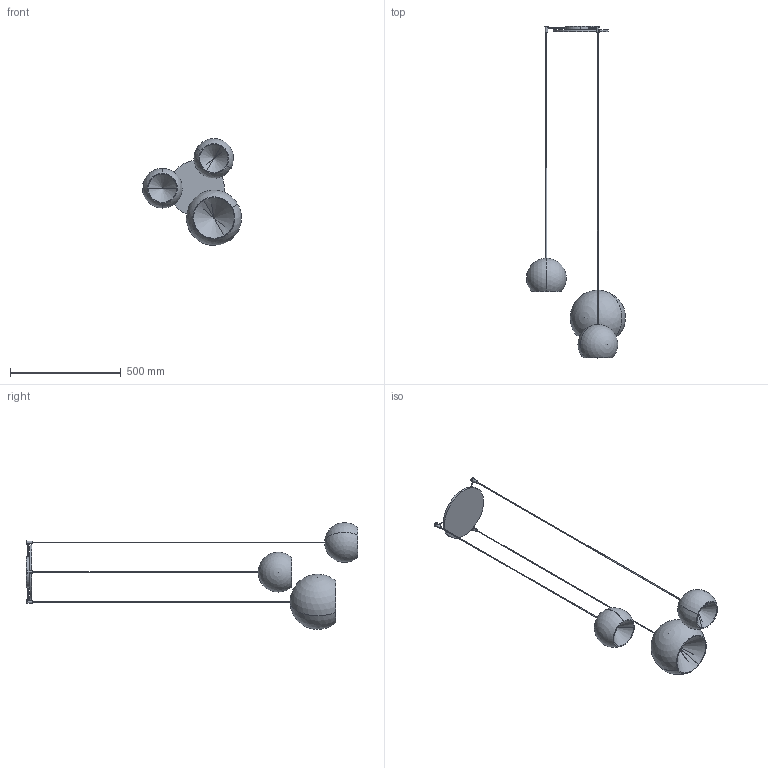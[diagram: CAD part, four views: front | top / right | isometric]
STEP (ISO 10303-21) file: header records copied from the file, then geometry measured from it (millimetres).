
FILE_DESCRIPTION (( 'STEP AP203' ), '1' );
FILE_NAME ('CRM03-00-CHERRY MIX_3 SOSPENSIONE.STEP', '2024-07-31T09:26:09', ( '' ), ( '' ), 'SwSTEP 2.0', 'SolidWorks 2022', '' );
FILE_SCHEMA (( 'CONFIG_CONTROL_DESIGN' ));
Length unit declared in the file: millimetre
Products named in the file (5): CHERRY_Lampada singola Diam.180_H=1500; CHERRY MIX_Lampada singola Diam.250_H=1600; CHERRY MIX_Rosone diam.250_Cherry 3<A macchina>; CRM03-00-CHERRY MIX_3 SOSPENSIONE; CHERRY_Lampada singola Diam.180_H=1800
Assembly tree (4 placements, depth 2):
  CRM03-00-CHERRY MIX_3 SOSPENSIONE
    CHERRY MIX_Rosone diam.250_Cherry 3<A macchina>
    CHERRY_Lampada singola Diam.180_H=1800
    CHERRY_Lampada singola Diam.180_H=1500
    CHERRY MIX_Lampada singola Diam.250_H=1600
Bounding box: 447.41 x 1500 x 483.12 mm (x, y, z)
Volume: 1485672.9 mm3; surface area: 988063.5 mm2
Topology: 16 solids, 16 shells, 118 faces, 278 edges, 175 vertices
Faces by surface type: cylinder 57, plane 37, sphere 12, cone 12
Entity records: 3795 total; most frequent: CARTESIAN_POINT 764, DIRECTION 588, ORIENTED_EDGE 472, AXIS2_PLACEMENT_3D 261, EDGE_CURVE 236, VERTEX_POINT 157, CIRCLE 136, EDGE_LOOP 131
